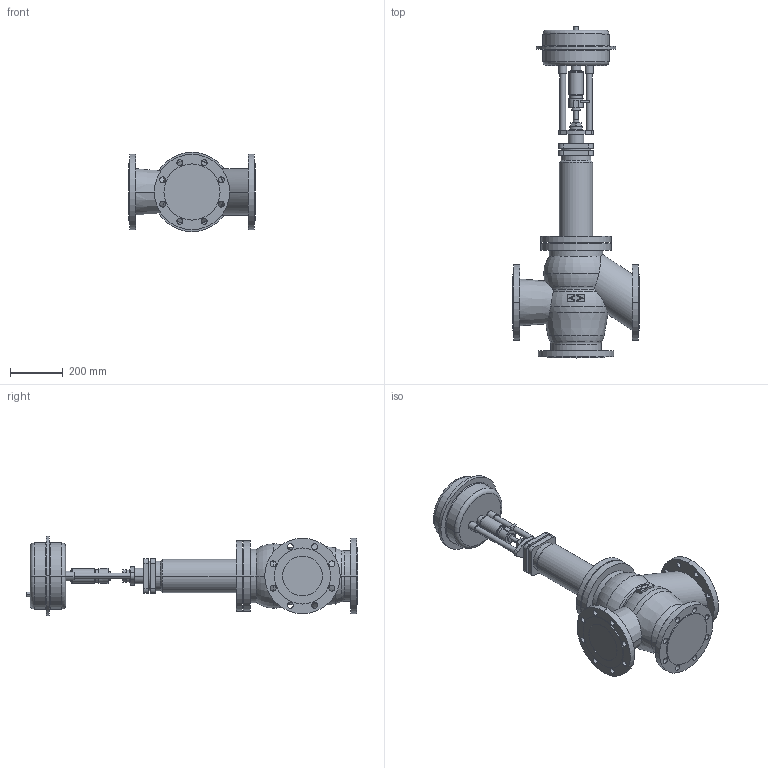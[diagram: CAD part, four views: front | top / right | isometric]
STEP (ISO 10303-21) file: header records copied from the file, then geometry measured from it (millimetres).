
FILE_DESCRIPTION(('OneSpaceDesigner STEP Export'),'2;1');
FILE_NAME('c000000713.stp','2007-01-26T13:15:52',(''),(''),'OneSpace Designer STEP processor for AP214 (Solid Model)','OneSpace Designer 14.00B 27-May-2006 (C) CoCreate Software GmbH','');
FILE_SCHEMA(('AUTOMOTIVE_DESIGN { 1 0 10303 214 1 1 1 1 }'));
Length unit declared in the file: millimetre
Products named in the file (2): 1; 2
Bounding box: 480 x 1255.8 x 300 mm (x, y, z)
Volume: 40197322.4 mm3; surface area: 1423762.4 mm2
Topology: 2 solids, 2 shells, 274 faces, 671 edges, 438 vertices
Faces by surface type: cylinder 132, plane 100, torus 32, cone 10
Entity records: 7471 total; most frequent: CARTESIAN_POINT 1482, ORIENTED_EDGE 1342, DIRECTION 1094, EDGE_CURVE 671, VERTEX_POINT 438, AXIS2_PLACEMENT_3D 406, EDGE_LOOP 359, VECTOR 282
